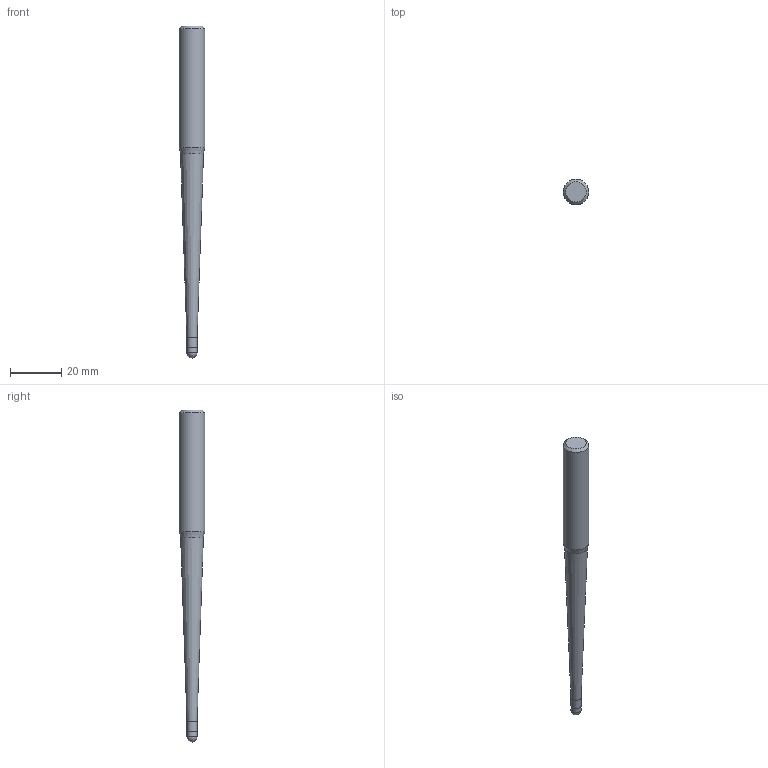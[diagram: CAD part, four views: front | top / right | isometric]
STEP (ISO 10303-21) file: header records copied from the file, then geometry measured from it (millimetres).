
FILE_DESCRIPTION((''),'2;1');
FILE_NAME('C:\Users\nsx150\AppData\Local\Temp\Mastercam 2021\SNAKH10GOD\TEMP.step','2021-10-21T13:33:39',(''),(''),'STEP Write','Mastercam 2021 ... CNC Software, Inc.','');
FILE_SCHEMA(('AUTOMOTIVE_DESIGN'));
Length unit declared in the file: millimetre
Products named in the file (1): None
Bounding box: 10 x 10 x 130 mm (x, y, z)
Volume: 6500.2 mm3; surface area: 3225.3 mm2
Topology: 2 solids, 2 shells, 10 faces, 16 edges, 9 vertices
Faces by surface type: plane 3, cylinder 3, cone 3, sphere 1
Full cylindrical faces by diameter (mm): 3.98 x1, 4 x1, 10 x1
Entity records: 232 total; most frequent: DIRECTION 40, CARTESIAN_POINT 28, AXIS2_PLACEMENT_3D 20, ORIENTED_EDGE 16, EDGE_LOOP 16, STYLED_ITEM 13, ADVANCED_FACE 10, FACE_BOUND 9
